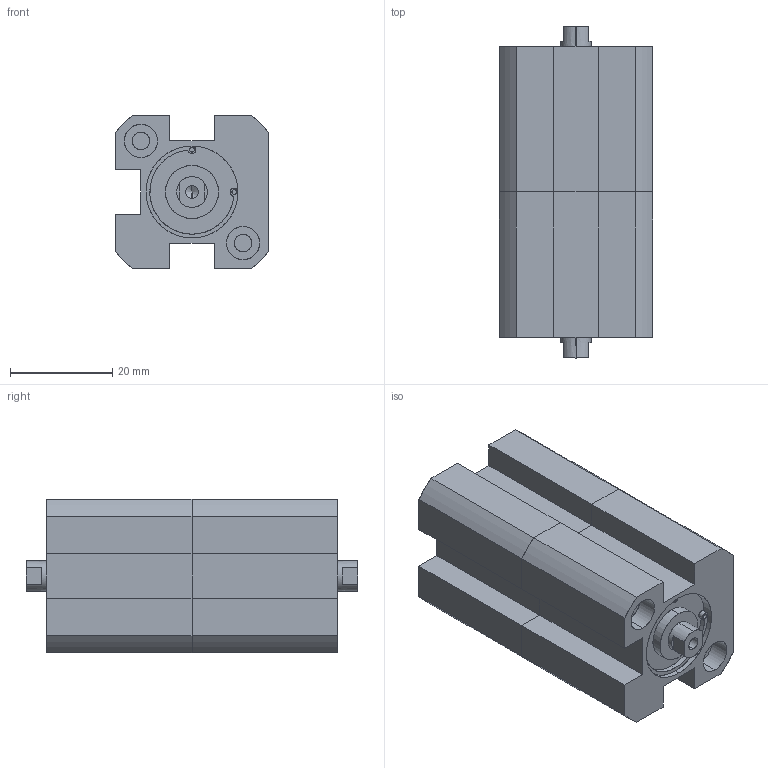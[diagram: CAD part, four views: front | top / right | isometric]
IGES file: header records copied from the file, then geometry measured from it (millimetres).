
Start section: SolidWorks IGES file using analytic representation for surfaces
Global section: file name: C:\Users\Toshiba\Desktop\XCD7-16-10-10.IGS; native system: SolidWorks 2014; preprocessor: SolidWorks 2014; author: Toshiba; date: 160805.093754; units: millimetre
Bounding box: 30 x 65 x 30 mm (x, y, z)
Surface area: 13841.3 mm2 (no closed solid volume)
Topology: 0 solids, 0 shells, 154 faces, 2342 edges, 2330 vertices
Faces by surface type: revolution 90, bspline 64
